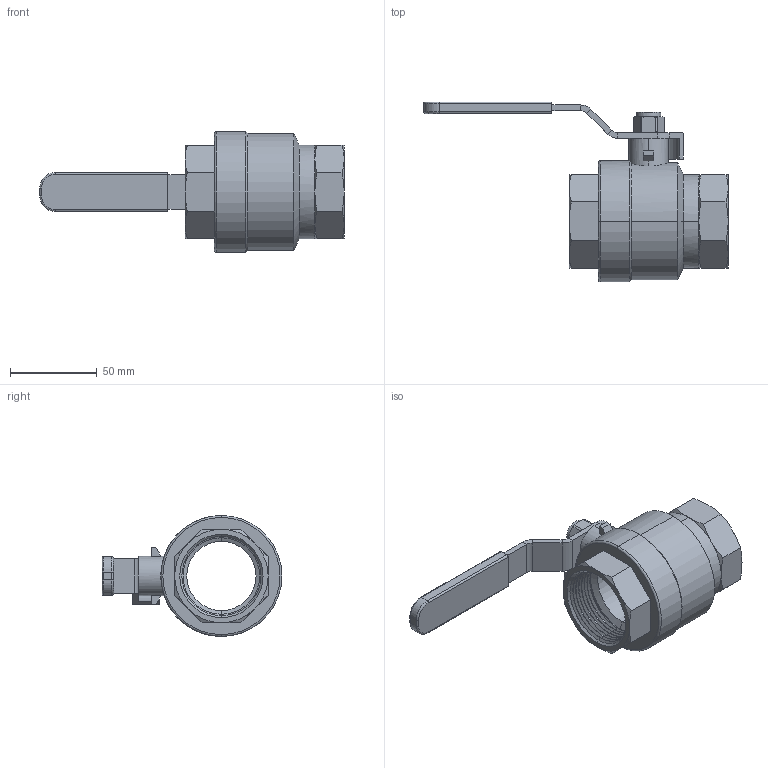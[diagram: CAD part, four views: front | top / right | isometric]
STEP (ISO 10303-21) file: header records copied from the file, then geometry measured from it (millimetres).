
FILE_DESCRIPTION (( 'STEP AP203' ), '1' );
FILE_NAME ('KP_14-040.step', '2011-08-08T12:05:01', ( '' ), ( '' ), 'SwSTEP 2.0', 'SolidWorks 2011', '' );
FILE_SCHEMA (( 'CONFIG_CONTROL_DESIGN' ));
Length unit declared in the file: millimetre
Products named in the file (1): KP_14-040
Bounding box: 176 x 104 x 70 mm (x, y, z)
Volume: 174419.2 mm3; surface area: 50929.8 mm2
Topology: 2 solids, 2 shells, 312 faces, 697 edges, 399 vertices
Faces by surface type: cone 123, plane 77, cylinder 73, torus 39
Entity records: 8972 total; most frequent: CARTESIAN_POINT 1929, DIRECTION 1567, ORIENTED_EDGE 1394, EDGE_CURVE 697, AXIS2_PLACEMENT_3D 637, VERTEX_POINT 399, EDGE_LOOP 326, CIRCLE 324
